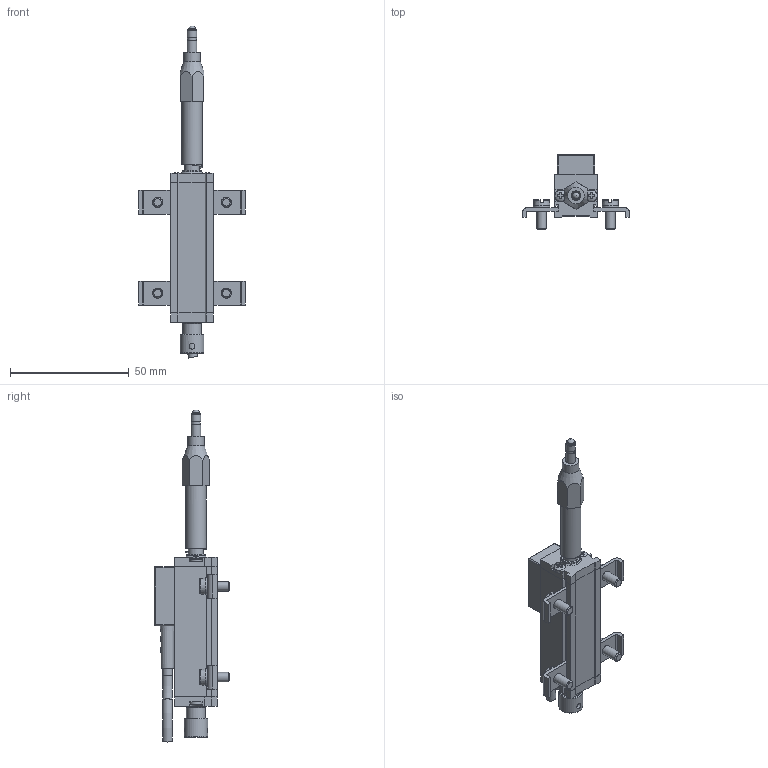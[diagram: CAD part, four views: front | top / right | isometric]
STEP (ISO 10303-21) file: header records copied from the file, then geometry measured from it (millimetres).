
FILE_DESCRIPTION(/* description */ ('STEP AP203'),/* implementation_level */ '2;1');
FILE_NAME(/* name */ 'PY2-F-025-S01M 0000x000X0N_(0)',/* time_stamp */ '2024-11-26T09:38:00+01:00',/* author */ ('License CC BY-ND 4.0'),/* organization */ ('CADENAS'),/* preprocessor_version */ 'ST-DEVELOPER v19.3',/* originating_system */ 'PARTsolutions',/* authorisation */ ' ');
FILE_SCHEMA (('CONFIG_CONTROL_DESIGN'));
Length unit declared in the file: millimetre
Products named in the file (9): PY2-F-025-S01M 0000x000X0N_(0); CUS_4525PY; 53PYN; 1250; 4525PY2; 15; CJ_1010; FPYN; PKIT_20
Assembly tree (12 placements, depth 2):
  PY2-F-025-S01M 0000x000X0N_(0)
    CUS_4525PY
    53PYN  x2
    1250
    4525PY2
    15
    CJ_1010
    FPYN
    PKIT_20  x4
Bounding box: 45 x 31.7 x 140 mm (x, y, z)
Volume: 30044.9 mm3; surface area: 17531 mm2
Topology: 12 solids, 12 shells, 368 faces, 880 edges, 565 vertices
Faces by surface type: plane 248, cylinder 69, cone 26, torus 16, sphere 9
Full cylindrical faces by diameter (mm): 0.6 x4, 2.5 x2, 3.2 x2, 3.3 x1, 3.8 x3, 4 x9, 4.3 x4, 5 x5, 5.1 x2, 6 x2, 6.3 x2, 7 x6, 7.4 x1, 7.8 x2, 8 x1, 8.5 x1, 8.6 x1, 10 x1
Entity records: 7145 total; most frequent: CARTESIAN_POINT 1223, DIRECTION 1056, ORIENTED_EDGE 902, EDGE_CURVE 451, AXIS2_PLACEMENT_3D 395, EDGE_LOOP 325, FACE_BOUND 325, VERTEX_POINT 322
